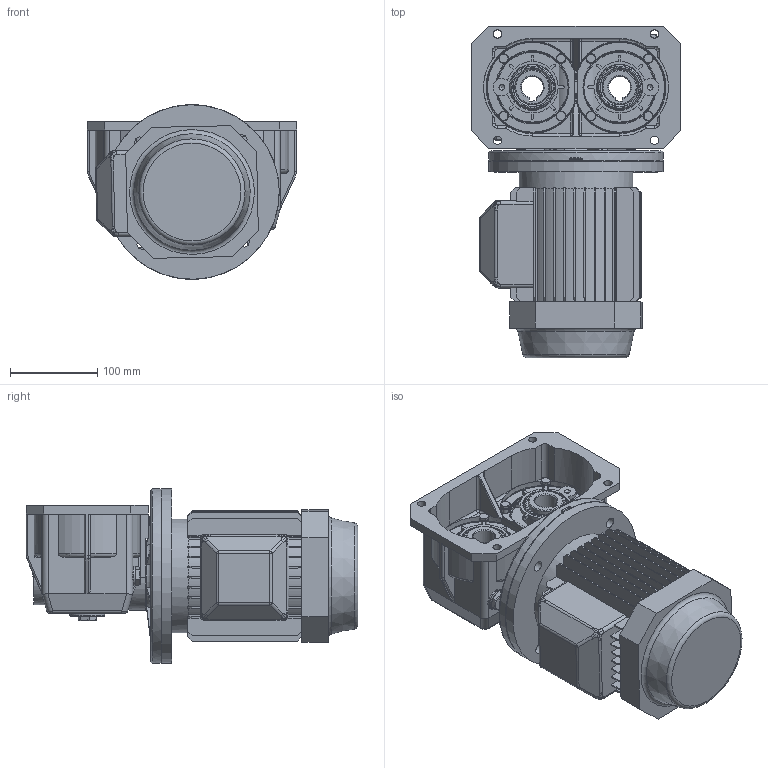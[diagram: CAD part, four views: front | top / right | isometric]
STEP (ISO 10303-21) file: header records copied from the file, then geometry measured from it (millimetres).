
FILE_DESCRIPTION((''),'2;1');
FILE_NAME('Y:\Archivi Inventor\Prog_07\int_100\Figurini\mrv100 2u 100 sito\mrv1002u_80_b5.stp','2013-02-14T10:10:51',('tech3'),(''),'Autodesk Inventor 2013','Autodesk Inventor 2013','');
FILE_SCHEMA(('AUTOMOTIVE_DESIGN { 1 0 10303 214 1 1 1 1 }'));
Length unit declared in the file: millimetre
Products named in the file (14): Fig_MRV 2U int_100; Fig_Carcassa MRV-2U 100; Fig_corona MRV 2u 100; 0101029; Fig_0710002; Coperchietto_42x7; 40_52_8; PARAOLIO 30x55x7; Guarnizione 3_8 GAS; Tappo3_8 GAS; UNI 5931 M 6 x  16; UNI 5739 M6 x 20; FM-40-50-D=200; motori B5 80
Assembly tree (35 placements, depth 2):
  Fig_MRV 2U int_100
    Fig_Carcassa MRV-2U 100
    Fig_corona MRV 2u 100  x2
    0101029  x2
    Fig_0710002  x2
    Coperchietto_42x7
    40_52_8  x4
    PARAOLIO 30x55x7
    Guarnizione 3_8 GAS  x3
    Tappo3_8 GAS  x3
    UNI 5931 M 6 x  16  x6
    UNI 5739 M6 x 20  x8
    FM-40-50-D=200
    motori B5 80
Bounding box: 240 x 380 x 200 mm (x, y, z)
Volume: 5772642.4 mm3; surface area: 787136.1 mm2
Topology: 35 solids, 41 shells, 1885 faces, 4653 edges, 2923 vertices
Faces by surface type: plane 855, cylinder 516, torus 204, cone 180, bspline 111, sphere 19
Full cylindrical faces by diameter (mm): 4.917 x14, 6 x14, 6.5 x18, 7 x6, 8.88 x8, 9.5 x4, 10 x6, 11 x8, 11.5 x4, 12 x4, 13.046 x3, 14.95 x3, 16.3 x3, 19 x1, 22 x6, 25 x3, 33.967 x1, 36.96 x1, 39.95 x4, 40 x6, 42 x2, 42.881 x4, 47.232 x4, 48 x1, 52 x9, 55 x3, 78 x1, 80 x2, 82 x6, 103.5 x2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
Entity records: 52204 total; most frequent: CARTESIAN_POINT 16497, DIRECTION 7350, ORIENTED_EDGE 7180, EDGE_CURVE 3590, AXIS2_PLACEMENT_3D 2756, VERTEX_POINT 2346, VECTOR 1838, LINE 1838
